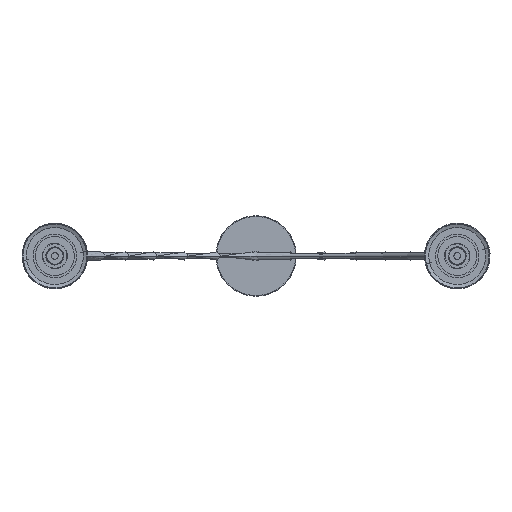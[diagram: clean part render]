
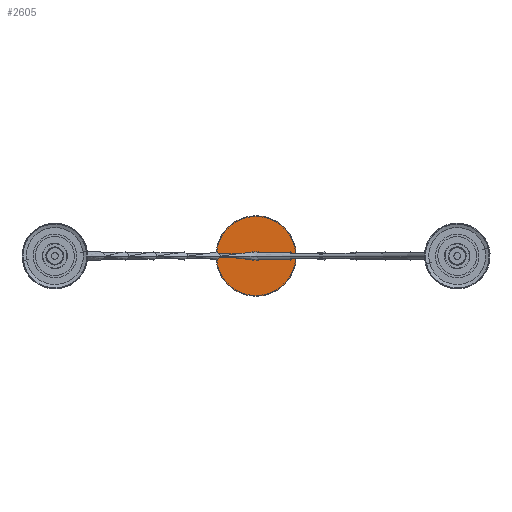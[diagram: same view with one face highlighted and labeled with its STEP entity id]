
A CAD part, front view. The second image highlights one B-rep face of the part: STEP entity #2605.
In plain terms, the highlighted planar face has unit normal (0, -1, 0).
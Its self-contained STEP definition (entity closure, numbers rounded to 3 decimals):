
#40 = PLANE ( 'NONE',  #2654 ) ;
#69 = DIRECTION ( 'NONE',  ( 0., 1., 0. ) ) ;
#549 = VERTEX_POINT ( 'NONE', #1993 ) ;
#683 = FACE_OUTER_BOUND ( 'NONE', #4146, .T. ) ;
#706 = AXIS2_PLACEMENT_3D ( 'NONE', #3892, #2265, #3914 ) ;
#1249 = VERTEX_POINT ( 'NONE', #3378 ) ;
#1308 = CARTESIAN_POINT ( 'NONE',  ( 0., 520., 0. ) ) ;
#1394 = AXIS2_PLACEMENT_3D ( 'NONE', #1406, #69, #2682 ) ;
#1406 = CARTESIAN_POINT ( 'NONE',  ( 0., 520., 0. ) ) ;
#1617 = ORIENTED_EDGE ( 'NONE', *, *, #3926, .F. ) ;
#1993 = CARTESIAN_POINT ( 'NONE',  ( 0., 520., 60. ) ) ;
#2265 = DIRECTION ( 'NONE',  ( 0., 1., 0. ) ) ;
#2349 = CIRCLE ( 'NONE', #1394, 60. ) ;
#2605 = ADVANCED_FACE ( 'NONE', ( #683 ), #40, .F. ) ;
#2654 = AXIS2_PLACEMENT_3D ( 'NONE', #1308, #2928, #3348 ) ;
#2682 = DIRECTION ( 'NONE',  ( 0., 0., 1. ) ) ;
#2795 = ORIENTED_EDGE ( 'NONE', *, *, #3141, .F. ) ;
#2928 = DIRECTION ( 'NONE',  ( 0., 1., 0. ) ) ;
#3141 = EDGE_CURVE ( 'NONE', #549, #1249, #4061, .T. ) ;
#3348 = DIRECTION ( 'NONE',  ( 0., 0., 1. ) ) ;
#3378 = CARTESIAN_POINT ( 'NONE',  ( 0., 520., -60. ) ) ;
#3892 = CARTESIAN_POINT ( 'NONE',  ( 0., 520., 0. ) ) ;
#3914 = DIRECTION ( 'NONE',  ( 0., 0., 1. ) ) ;
#3926 = EDGE_CURVE ( 'NONE', #1249, #549, #2349, .T. ) ;
#4061 = CIRCLE ( 'NONE', #706, 60. ) ;
#4146 = EDGE_LOOP ( 'NONE', ( #1617, #2795 ) ) ;
